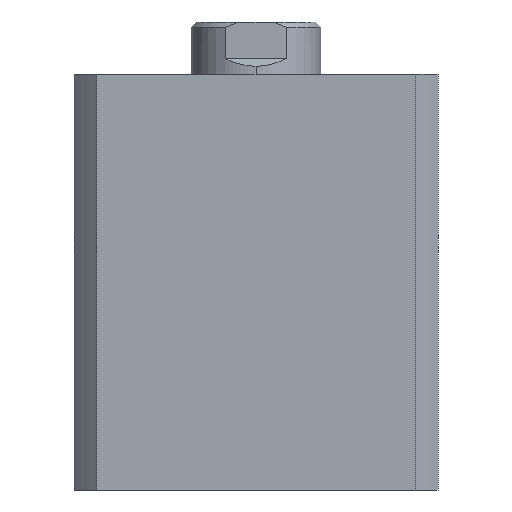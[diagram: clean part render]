
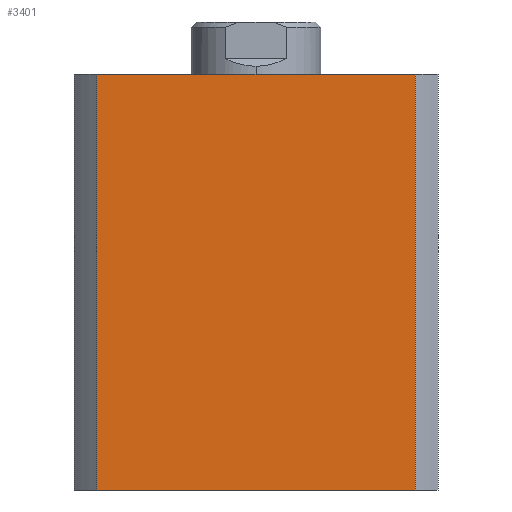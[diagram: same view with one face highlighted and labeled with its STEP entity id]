
A CAD part, left-side view. The second image highlights one B-rep face of the part: STEP entity #3401.
In plain terms, the highlighted planar face has unit normal (-1, 0, 0).
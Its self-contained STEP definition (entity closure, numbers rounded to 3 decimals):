
#439 = EDGE_LOOP ( 'NONE', ( #4857, #4856, #4855, #4854 ) ) ;
#735 = FACE_OUTER_BOUND ( 'NONE', #439, .T. ) ;
#905 = LINE ( 'NONE', #2185, #1182 ) ;
#1037 = LINE ( 'NONE', #3874, #1206 ) ;
#1127 = VECTOR ( 'NONE', #3904, 1000. ) ;
#1132 = LINE ( 'NONE', #3887, #1127 ) ;
#1177 = VECTOR ( 'NONE', #2175, 1000. ) ;
#1182 = VECTOR ( 'NONE', #2178, 1000. ) ;
#1194 = LINE ( 'NONE', #2177, #1177 ) ;
#1206 = VECTOR ( 'NONE', #3871, 1000. ) ;
#2113 = CARTESIAN_POINT ( 'NONE',  ( -35., 0., 80. ) ) ;
#2118 = PLANE ( 'NONE',  #3681 ) ;
#2121 = DIRECTION ( 'NONE',  ( 1., 0., 0. ) ) ;
#2122 = DIRECTION ( 'NONE',  ( 0., 1., 0. ) ) ;
#2175 = DIRECTION ( 'NONE',  ( 0., 0., -1. ) ) ;
#2177 = CARTESIAN_POINT ( 'NONE',  ( -35., -30.615, 80. ) ) ;
#2178 = DIRECTION ( 'NONE',  ( 0., -1., 0. ) ) ;
#2185 = CARTESIAN_POINT ( 'NONE',  ( -35., 0., 80. ) ) ;
#2767 = CARTESIAN_POINT ( 'NONE',  ( -35., -30.615, 0. ) ) ;
#2768 = CARTESIAN_POINT ( 'NONE',  ( -35., 30.615, 0. ) ) ;
#2812 = CARTESIAN_POINT ( 'NONE',  ( -35., -30.615, 80. ) ) ;
#2853 = CARTESIAN_POINT ( 'NONE',  ( -35., 30.615, 80. ) ) ;
#2939 = EDGE_CURVE ( 'NONE', #5051, #5010, #905, .T. ) ;
#2940 = EDGE_CURVE ( 'NONE', #5010, #4934, #1194, .T. ) ;
#2983 = EDGE_CURVE ( 'NONE', #4935, #4934, #1132, .T. ) ;
#2999 = EDGE_CURVE ( 'NONE', #5051, #4935, #1037, .T. ) ;
#3401 = ADVANCED_FACE ( 'NONE', ( #735 ), #2118, .F. ) ;
#3681 = AXIS2_PLACEMENT_3D ( 'NONE', #2113, #2121, #2122 ) ;
#3871 = DIRECTION ( 'NONE',  ( 0., 0., -1. ) ) ;
#3874 = CARTESIAN_POINT ( 'NONE',  ( -35., 30.615, 80. ) ) ;
#3887 = CARTESIAN_POINT ( 'NONE',  ( -35., 0., 0. ) ) ;
#3904 = DIRECTION ( 'NONE',  ( 0., -1., 0. ) ) ;
#4854 = ORIENTED_EDGE ( 'NONE', *, *, #2999, .T. ) ;
#4855 = ORIENTED_EDGE ( 'NONE', *, *, #2939, .F. ) ;
#4856 = ORIENTED_EDGE ( 'NONE', *, *, #2940, .F. ) ;
#4857 = ORIENTED_EDGE ( 'NONE', *, *, #2983, .T. ) ;
#4934 = VERTEX_POINT ( 'NONE', #2767 ) ;
#4935 = VERTEX_POINT ( 'NONE', #2768 ) ;
#5010 = VERTEX_POINT ( 'NONE', #2812 ) ;
#5051 = VERTEX_POINT ( 'NONE', #2853 ) ;
